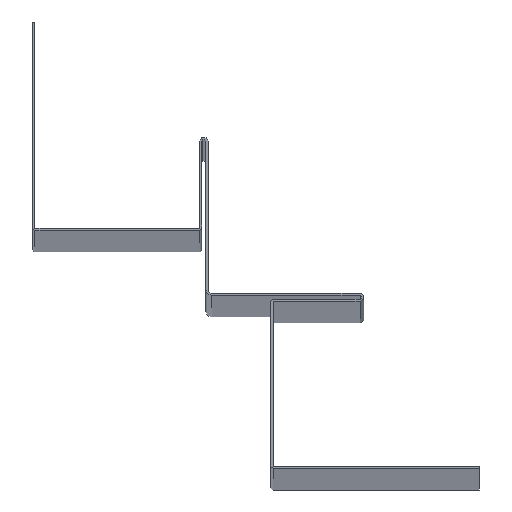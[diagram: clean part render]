
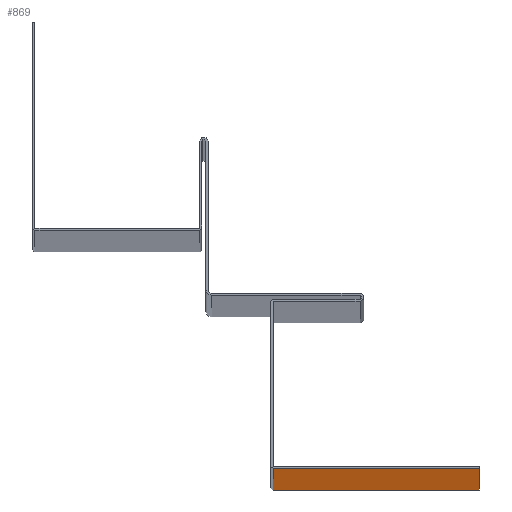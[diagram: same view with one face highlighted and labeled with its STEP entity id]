
A CAD part, top view. The second image highlights one B-rep face of the part: STEP entity #869.
In plain terms, the highlighted planar face has unit normal (0, -1, 0).
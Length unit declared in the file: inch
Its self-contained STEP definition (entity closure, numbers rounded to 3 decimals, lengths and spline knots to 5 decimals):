
#48 = VERTEX_POINT ( 'NONE', #212 ) ;
#58 = LINE ( 'NONE', #358, #885 ) ;
#79 = DIRECTION ( 'NONE',  ( 0., 0., -1. ) ) ;
#91 = ORIENTED_EDGE ( 'NONE', *, *, #932, .T. ) ;
#106 = ORIENTED_EDGE ( 'NONE', *, *, #658, .F. ) ;
#142 = CARTESIAN_POINT ( 'NONE',  ( 0.63, -1.66319, 120. ) ) ;
#146 = DIRECTION ( 'NONE',  ( 0., 1., 0. ) ) ;
#174 = LINE ( 'NONE', #808, #1107 ) ;
#183 = CARTESIAN_POINT ( 'NONE',  ( 2.61, -1.66319, 120. ) ) ;
#212 = CARTESIAN_POINT ( 'NONE',  ( 2.61, -1.66319, 0. ) ) ;
#216 = VECTOR ( 'NONE', #345, 39.37008 ) ;
#245 = CARTESIAN_POINT ( 'NONE',  ( 0.63, -1.66319, 0. ) ) ;
#269 = CARTESIAN_POINT ( 'NONE',  ( 0.63, -1.66319, 0. ) ) ;
#277 = EDGE_LOOP ( 'NONE', ( #1105, #796, #106, #91 ) ) ;
#332 = PLANE ( 'NONE',  #977 ) ;
#344 = LINE ( 'NONE', #547, #216 ) ;
#345 = DIRECTION ( 'NONE',  ( 1., 0., 0. ) ) ;
#358 = CARTESIAN_POINT ( 'NONE',  ( 2.61, -1.66319, 120. ) ) ;
#547 = CARTESIAN_POINT ( 'NONE',  ( 0.63, -1.66319, 120. ) ) ;
#591 = EDGE_CURVE ( 'NONE', #714, #48, #58, .T. ) ;
#658 = EDGE_CURVE ( 'NONE', #1045, #714, #344, .T. ) ;
#714 = VERTEX_POINT ( 'NONE', #183 ) ;
#732 = DIRECTION ( 'NONE',  ( 1., 0., 0. ) ) ;
#767 = VECTOR ( 'NONE', #732, 39.37008 ) ;
#796 = ORIENTED_EDGE ( 'NONE', *, *, #591, .F. ) ;
#808 = CARTESIAN_POINT ( 'NONE',  ( 0.63, -1.66319, 120. ) ) ;
#834 = EDGE_CURVE ( 'NONE', #905, #48, #1005, .T. ) ;
#837 = CARTESIAN_POINT ( 'NONE',  ( 0.63, -1.66319, 120. ) ) ;
#869 = ADVANCED_FACE ( 'NONE', ( #942 ), #332, .F. ) ;
#885 = VECTOR ( 'NONE', #79, 39.37008 ) ;
#905 = VERTEX_POINT ( 'NONE', #245 ) ;
#932 = EDGE_CURVE ( 'NONE', #1045, #905, #174, .T. ) ;
#942 = FACE_OUTER_BOUND ( 'NONE', #277, .T. ) ;
#976 = DIRECTION ( 'NONE',  ( 0., 0., -1. ) ) ;
#977 = AXIS2_PLACEMENT_3D ( 'NONE', #142, #146, #1029 ) ;
#1005 = LINE ( 'NONE', #269, #767 ) ;
#1029 = DIRECTION ( 'NONE',  ( 0., 0., 1. ) ) ;
#1045 = VERTEX_POINT ( 'NONE', #837 ) ;
#1105 = ORIENTED_EDGE ( 'NONE', *, *, #834, .T. ) ;
#1107 = VECTOR ( 'NONE', #976, 39.37008 ) ;
